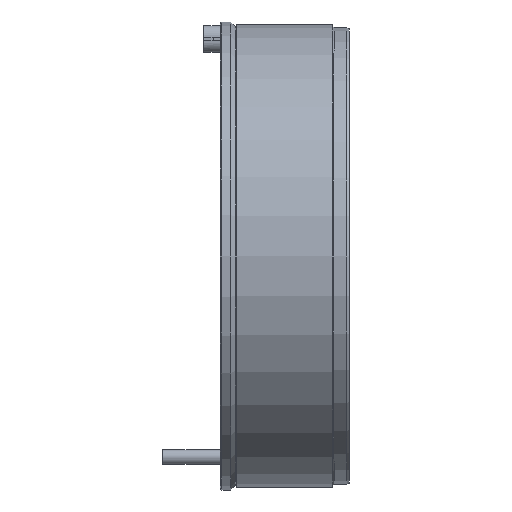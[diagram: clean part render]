
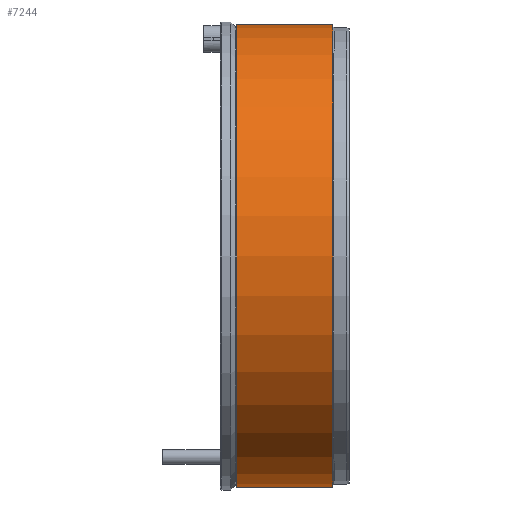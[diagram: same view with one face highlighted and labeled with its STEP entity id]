
A CAD part, left-side view. The second image highlights one B-rep face of the part: STEP entity #7244.
In plain terms, the highlighted cylindrical face has radius 197.5 mm (diameter 395 mm), a partial arc.
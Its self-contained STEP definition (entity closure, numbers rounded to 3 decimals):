
#69 = VERTEX_POINT ( 'NONE', #681 ) ;
#81 = VERTEX_POINT ( 'NONE', #7302 ) ;
#360 = ORIENTED_EDGE ( 'NONE', *, *, #6139, .F. ) ;
#681 = CARTESIAN_POINT ( 'NONE',  ( 0., 96., 197.5 ) ) ;
#777 = DIRECTION ( 'NONE',  ( 0., -1., 0. ) ) ;
#829 = CARTESIAN_POINT ( 'NONE',  ( 0., 0., 0. ) ) ;
#1737 = CARTESIAN_POINT ( 'NONE',  ( 0., 0., 197.5 ) ) ;
#1822 = AXIS2_PLACEMENT_3D ( 'NONE', #5013, #7063, #8476 ) ;
#2000 = CIRCLE ( 'NONE', #5978, 197.5 ) ;
#2172 = EDGE_CURVE ( 'NONE', #69, #4967, #2000, .T. ) ;
#2847 = LINE ( 'NONE', #1737, #6705 ) ;
#2947 = EDGE_CURVE ( 'NONE', #9322, #81, #6769, .T. ) ;
#3094 = CARTESIAN_POINT ( 'NONE',  ( 0., 96., 0. ) ) ;
#3449 = ORIENTED_EDGE ( 'NONE', *, *, #8446, .T. ) ;
#3666 = DIRECTION ( 'NONE',  ( 0., 0., -1. ) ) ;
#4314 = FACE_OUTER_BOUND ( 'NONE', #4445, .T. ) ;
#4445 = EDGE_LOOP ( 'NONE', ( #360, #8587, #3449, #6950 ) ) ;
#4652 = VECTOR ( 'NONE', #4808, 1000. ) ;
#4808 = DIRECTION ( 'NONE',  ( 0., -1., 0. ) ) ;
#4967 = VERTEX_POINT ( 'NONE', #7584 ) ;
#5013 = CARTESIAN_POINT ( 'NONE',  ( 0., 14., 0. ) ) ;
#5615 = CARTESIAN_POINT ( 'NONE',  ( 0., 14., 197.5 ) ) ;
#5978 = AXIS2_PLACEMENT_3D ( 'NONE', #3094, #777, #7432 ) ;
#6139 = EDGE_CURVE ( 'NONE', #69, #9322, #2847, .T. ) ;
#6167 = CARTESIAN_POINT ( 'NONE',  ( 0., 0., -197.5 ) ) ;
#6705 = VECTOR ( 'NONE', #7567, 1000. ) ;
#6769 = CIRCLE ( 'NONE', #1822, 197.5 ) ;
#6950 = ORIENTED_EDGE ( 'NONE', *, *, #2947, .F. ) ;
#7063 = DIRECTION ( 'NONE',  ( 0., -1., 0. ) ) ;
#7244 = ADVANCED_FACE ( 'NONE', ( #4314 ), #7469, .T. ) ;
#7302 = CARTESIAN_POINT ( 'NONE',  ( 0., 14., -197.5 ) ) ;
#7350 = LINE ( 'NONE', #6167, #4652 ) ;
#7393 = DIRECTION ( 'NONE',  ( 0., -1., 0. ) ) ;
#7432 = DIRECTION ( 'NONE',  ( 0., 0., -1. ) ) ;
#7469 = CYLINDRICAL_SURFACE ( 'NONE', #7946, 197.5 ) ;
#7567 = DIRECTION ( 'NONE',  ( 0., -1., 0. ) ) ;
#7584 = CARTESIAN_POINT ( 'NONE',  ( 0., 96., -197.5 ) ) ;
#7946 = AXIS2_PLACEMENT_3D ( 'NONE', #829, #7393, #3666 ) ;
#8446 = EDGE_CURVE ( 'NONE', #4967, #81, #7350, .T. ) ;
#8476 = DIRECTION ( 'NONE',  ( 0., 0., -1. ) ) ;
#8587 = ORIENTED_EDGE ( 'NONE', *, *, #2172, .T. ) ;
#9322 = VERTEX_POINT ( 'NONE', #5615 ) ;
